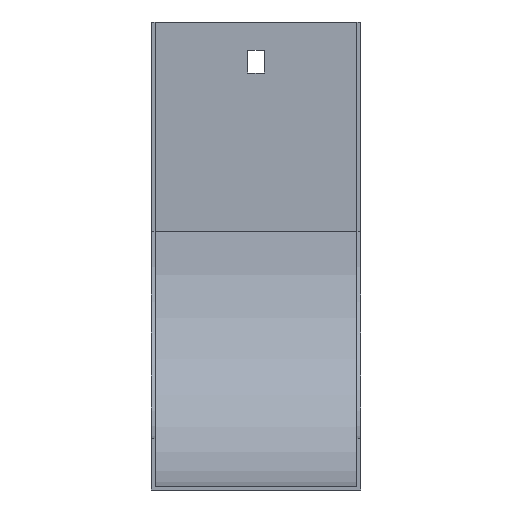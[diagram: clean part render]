
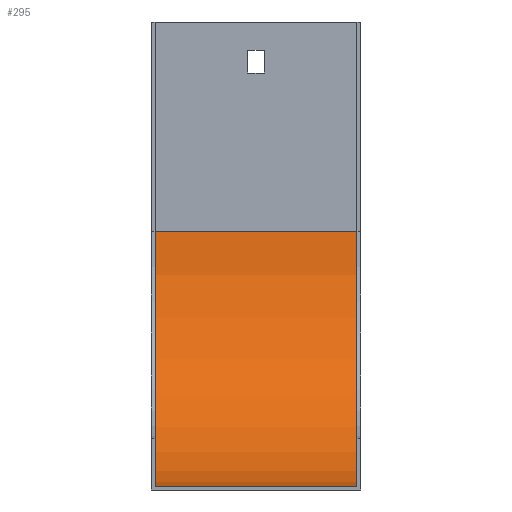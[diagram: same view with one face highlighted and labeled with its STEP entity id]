
A CAD part, front view. The second image highlights one B-rep face of the part: STEP entity #295.
In plain terms, the highlighted cylindrical face has radius 100 mm (diameter 200 mm), a partial arc.
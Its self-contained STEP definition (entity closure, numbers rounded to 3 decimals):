
#54 = DIRECTION ( 'NONE',  ( 0., 0., 1. ) ) ;
#62 = AXIS2_PLACEMENT_3D ( 'NONE', #184, #719, #54 ) ;
#79 = CIRCLE ( 'NONE', #429, 100. ) ;
#107 = CIRCLE ( 'NONE', #550, 100. ) ;
#133 = ORIENTED_EDGE ( 'NONE', *, *, #433, .F. ) ;
#136 = CARTESIAN_POINT ( 'NONE',  ( 39.5, -101.5, -82. ) ) ;
#143 = DIRECTION ( 'NONE',  ( -1., 0., 0. ) ) ;
#184 = CARTESIAN_POINT ( 'NONE',  ( 41., -101.5, -82. ) ) ;
#194 = FACE_OUTER_BOUND ( 'NONE', #701, .T. ) ;
#195 = DIRECTION ( 'NONE',  ( -1., 0., 0. ) ) ;
#295 = ADVANCED_FACE ( 'NONE', ( #194 ), #670, .F. ) ;
#320 = VERTEX_POINT ( 'NONE', #800 ) ;
#344 = DIRECTION ( 'NONE',  ( 1., 0., 0. ) ) ;
#352 = CARTESIAN_POINT ( 'NONE',  ( -39.5, -101.5, -182. ) ) ;
#383 = VERTEX_POINT ( 'NONE', #399 ) ;
#399 = CARTESIAN_POINT ( 'NONE',  ( 39.5, -1.5, -82. ) ) ;
#412 = DIRECTION ( 'NONE',  ( 0., 0., 1. ) ) ;
#423 = DIRECTION ( 'NONE',  ( 0., 0., 1. ) ) ;
#428 = CARTESIAN_POINT ( 'NONE',  ( -39.5, -101.5, -82. ) ) ;
#429 = AXIS2_PLACEMENT_3D ( 'NONE', #428, #344, #412 ) ;
#433 = EDGE_CURVE ( 'NONE', #505, #614, #79, .T. ) ;
#442 = ORIENTED_EDGE ( 'NONE', *, *, #559, .F. ) ;
#447 = EDGE_CURVE ( 'NONE', #320, #383, #107, .T. ) ;
#474 = EDGE_CURVE ( 'NONE', #383, #614, #491, .T. ) ;
#491 = LINE ( 'NONE', #754, #503 ) ;
#503 = VECTOR ( 'NONE', #143, 1000. ) ;
#505 = VERTEX_POINT ( 'NONE', #352 ) ;
#550 = AXIS2_PLACEMENT_3D ( 'NONE', #136, #607, #423 ) ;
#559 = EDGE_CURVE ( 'NONE', #320, #505, #649, .T. ) ;
#607 = DIRECTION ( 'NONE',  ( 1., 0., 0. ) ) ;
#614 = VERTEX_POINT ( 'NONE', #654 ) ;
#649 = LINE ( 'NONE', #711, #829 ) ;
#654 = CARTESIAN_POINT ( 'NONE',  ( -39.5, -1.5, -82. ) ) ;
#670 = CYLINDRICAL_SURFACE ( 'NONE', #62, 100. ) ;
#701 = EDGE_LOOP ( 'NONE', ( #133, #442, #740, #757 ) ) ;
#711 = CARTESIAN_POINT ( 'NONE',  ( 41., -101.5, -182. ) ) ;
#719 = DIRECTION ( 'NONE',  ( -1., 0., 0. ) ) ;
#740 = ORIENTED_EDGE ( 'NONE', *, *, #447, .T. ) ;
#754 = CARTESIAN_POINT ( 'NONE',  ( 41., -1.5, -82. ) ) ;
#757 = ORIENTED_EDGE ( 'NONE', *, *, #474, .T. ) ;
#800 = CARTESIAN_POINT ( 'NONE',  ( 39.5, -101.5, -182. ) ) ;
#829 = VECTOR ( 'NONE', #195, 1000. ) ;
